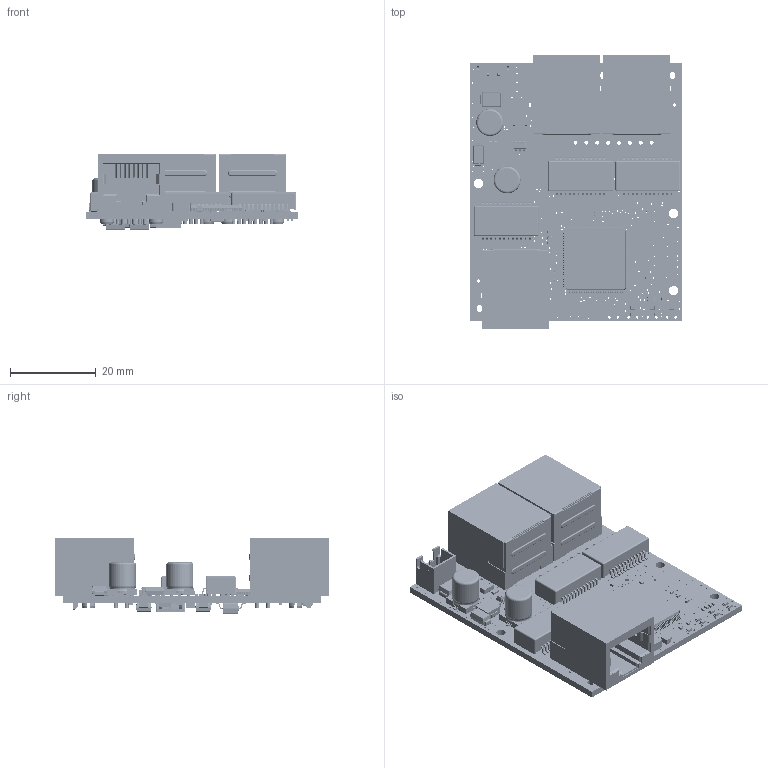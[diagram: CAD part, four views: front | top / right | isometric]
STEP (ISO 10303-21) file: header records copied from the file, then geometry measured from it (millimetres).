
FILE_DESCRIPTION(('Designed by EasyEDA Pro'),'2;1');
FILE_NAME('Open CASCADE Shape Model','2024-07-09T21:39:21',('Author'),( 'Open CASCADE'),'Open CASCADE STEP processor 7.8','Open CASCADE 7.8' ,'Unknown');
FILE_SCHEMA(('AUTOMOTIVE_DESIGN { 1 0 10303 214 1 1 1 1 }'));
Length unit declared in the file: millimetre
Products named in the file (144): PCBModel; TopTrack; BottomTrack; Board; mzPq-C16; C0805; SOLID; mzPq-C30; mzPq-C3; mzPq-C2; C0402; mzPq-C7; mzPq-C18; mzPq-C93; mzPq-C94; mzPq-C95; mzPq-C96; mzPq-C97; mzPq-C98; mzPq-C99; mzPq-C100; mzPq-C101; mzPq-C102; mzPq-C103; mzPq-C104; mzPq-C105; mzPq-C106; mzPq-C107; mzPq-C108; mzPq-C110; mzPq-C112; mzPq-C113; mzPq-C116; mzPq-C117; mzPq-C127; mzPq-C130; mzPq-C36; 0402; mzPq-C37; mzPq-C39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
Assembly tree (214 placements, depth 4):
  PCBModel
    TopTrack
    BottomTrack
    Board
    mzPq-C16
      C0805
        SOLID
    mzPq-C30
      C0805
        SOLID
    mzPq-C3
      C0805
        SOLID
    mzPq-C2
      C0402
        SOLID
    mzPq-C7
      C0402
        SOLID
    mzPq-C18
      C0402
        SOLID
    mzPq-C93
      C0402
        SOLID
    mzPq-C94
      C0402
        SOLID
    mzPq-C95
      C0402
        SOLID
    mzPq-C96
      C0402
        SOLID
    mzPq-C97
      C0402
        SOLID
    mzPq-C98
      C0402
        SOLID
    mzPq-C99
      C0402
        SOLID
    mzPq-C100
      C0402
        SOLID
    mzPq-C101
      C0402
        SOLID
    mzPq-C102
      C0402
        SOLID
    mzPq-C103
      C0402
        SOLID
    mzPq-C104
      C0402
        SOLID
    mzPq-C105
      C0402
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Bounding box: 49.47 x 64.06 x 17.67 mm (x, y, z)
Volume: 15589.1 mm3; surface area: 24043.1 mm2
Topology: 269 solids, 269 shells, 34286 faces, 91928 edges, 59826 vertices
Faces by surface type: plane 19280, bspline 9419, cylinder 4861, sphere 598, torus 116, cone 12
Entity records: 471431 total; most frequent: CARTESIAN_POINT 110539, ORIENTED_EDGE 59858, DIRECTION 46262, EDGE_CURVE 29929, LINE 20182, VECTOR 20182, VERTEX_POINT 19596, AXIS2_PLACEMENT_3D 13040
